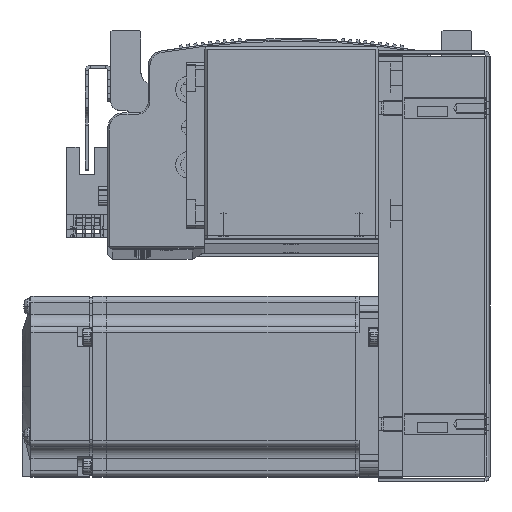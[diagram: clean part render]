
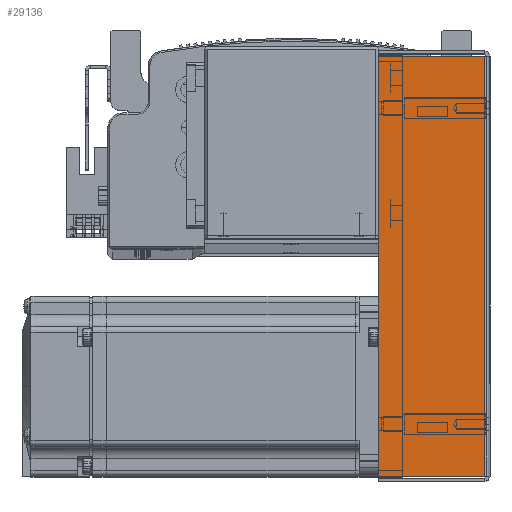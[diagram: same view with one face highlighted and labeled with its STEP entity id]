
A CAD part, top view. The second image highlights one B-rep face of the part: STEP entity #29136.
In plain terms, the highlighted planar face has unit normal (0, 0, 1).
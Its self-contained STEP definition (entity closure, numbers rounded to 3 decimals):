
#16992 = CARTESIAN_POINT ( 'NONE',  ( 69.793, 0.737, 33.5 ) ) ;
#17017 = CARTESIAN_POINT ( 'NONE',  ( 69.793, 36., 33.5 ) ) ;
#18296 = AXIS2_PLACEMENT_3D ( 'NONE', #71692, #71774, #71749 ) ;
#29136 = ADVANCED_FACE ( 'NONE', ( #78547 ), #71705, .F. ) ;
#36156 = VECTOR ( 'NONE', #39003, 1000. ) ;
#36162 = LINE ( 'NONE', #39032, #36168 ) ;
#36168 = VECTOR ( 'NONE', #39037, 1000. ) ;
#36197 = LINE ( 'NONE', #38994, #36156 ) ;
#36216 = VECTOR ( 'NONE', #39089, 1000. ) ;
#36219 = LINE ( 'NONE', #39053, #36216 ) ;
#36238 = VECTOR ( 'NONE', #39150, 1000. ) ;
#36263 = LINE ( 'NONE', #39117, #36238 ) ;
#38994 = CARTESIAN_POINT ( 'NONE',  ( 69.793, 0., 33.5 ) ) ;
#39003 = DIRECTION ( 'NONE',  ( 0., 1., 0. ) ) ;
#39032 = CARTESIAN_POINT ( 'NONE',  ( -69.793, 0., 33.5 ) ) ;
#39037 = DIRECTION ( 'NONE',  ( 0., 1., 0. ) ) ;
#39053 = CARTESIAN_POINT ( 'NONE',  ( 0., 36., 33.5 ) ) ;
#39089 = DIRECTION ( 'NONE',  ( -1., 0., 0. ) ) ;
#39117 = CARTESIAN_POINT ( 'NONE',  ( -71.5, 0.737, 33.5 ) ) ;
#39150 = DIRECTION ( 'NONE',  ( -1., 0., 0. ) ) ;
#53273 = EDGE_LOOP ( 'NONE', ( #75364, #75439, #75468, #75377 ) ) ;
#56265 = VERTEX_POINT ( 'NONE', #16992 ) ;
#56327 = VERTEX_POINT ( 'NONE', #17017 ) ;
#71692 = CARTESIAN_POINT ( 'NONE',  ( 0., 0., 33.5 ) ) ;
#71705 = PLANE ( 'NONE',  #18296 ) ;
#71749 = DIRECTION ( 'NONE',  ( -1., 0., 0. ) ) ;
#71774 = DIRECTION ( 'NONE',  ( 0., 0., -1. ) ) ;
#74506 = VERTEX_POINT ( 'NONE', #87032 ) ;
#74522 = VERTEX_POINT ( 'NONE', #87083 ) ;
#75364 = ORIENTED_EDGE ( 'NONE', *, *, #84006, .F. ) ;
#75377 = ORIENTED_EDGE ( 'NONE', *, *, #83948, .F. ) ;
#75439 = ORIENTED_EDGE ( 'NONE', *, *, #83904, .T. ) ;
#75468 = ORIENTED_EDGE ( 'NONE', *, *, #83967, .T. ) ;
#78547 = FACE_OUTER_BOUND ( 'NONE', #53273, .T. ) ;
#83904 = EDGE_CURVE ( 'NONE', #56265, #56327, #36197, .T. ) ;
#83948 = EDGE_CURVE ( 'NONE', #74506, #74522, #36162, .T. ) ;
#83967 = EDGE_CURVE ( 'NONE', #56327, #74522, #36219, .T. ) ;
#84006 = EDGE_CURVE ( 'NONE', #56265, #74506, #36263, .T. ) ;
#87032 = CARTESIAN_POINT ( 'NONE',  ( -69.793, 0.737, 33.5 ) ) ;
#87083 = CARTESIAN_POINT ( 'NONE',  ( -69.793, 36., 33.5 ) ) ;
